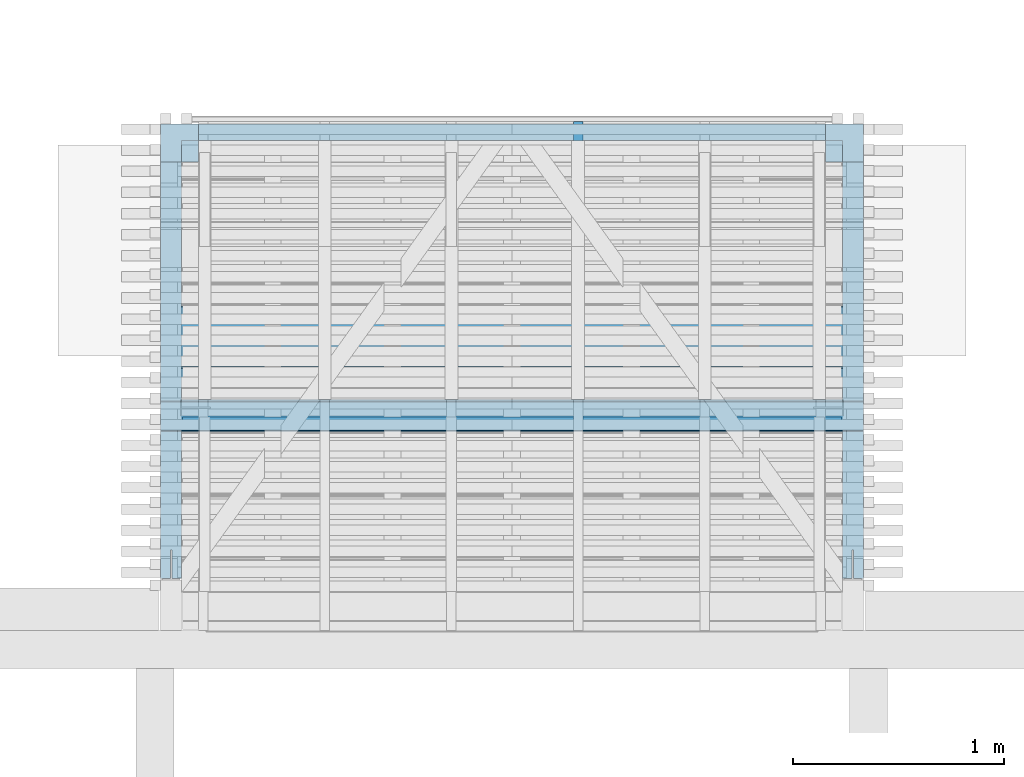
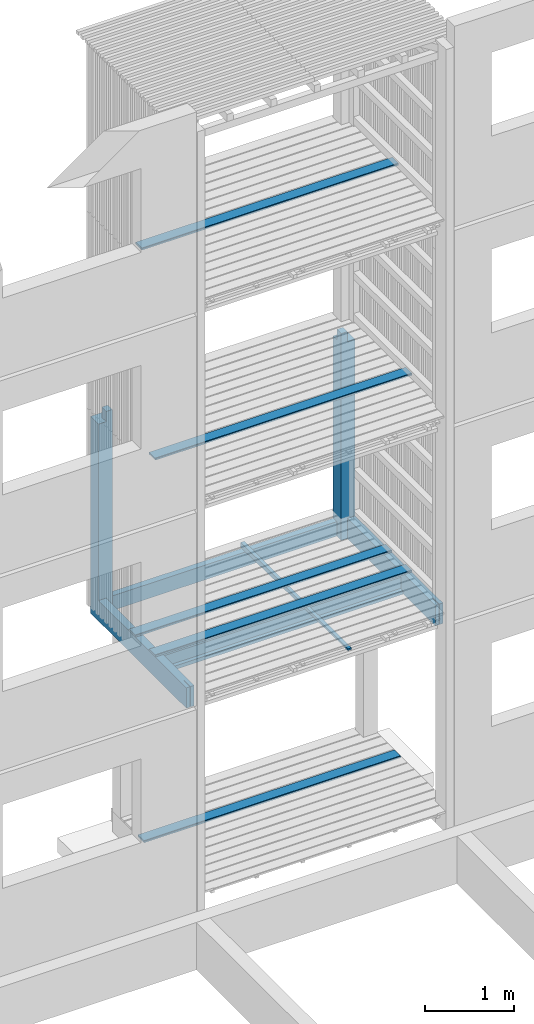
# One storey, part 96 of 182: 8 beams.
"""IFC2X3 building model written with IfcOpenShell, lengths in metres."""

from ifc_helpers import new_model, si_unit, frame, origin, place, context, project, spatial, faceted_brep, element, save


model = new_model("IFC2X3")

# Units and contexts
model_context = context("Model", 3, precision=1e-06, world=origin())
ifc_project = project(units=[si_unit("LENGTHUNIT", "METRE"), si_unit("PLANEANGLEUNIT", "RADIAN")], contexts=[model_context])

# Site, building, storey
site = spatial("IfcSite", under=ifc_project, CompositionType="ELEMENT")
building = spatial("IfcBuilding", under=site, CompositionType="ELEMENT")
storey = spatial("IfcBuildingStorey", under=building, Name="vs", CompositionType="ELEMENT", Elevation=-0.85)

# Beams
placement = place(None, origin())
beam_1_placement = place(placement, frame((44.68040135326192, 6.192577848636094, 2.437999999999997), z_axis=(0.0, -1.0, 0.0), x_axis=(0.0, 0.0, 1.0)))
element("IfcBeam", 1, at=beam_1_placement, inside=storey, Name="Poteau", context=model_context, shape_type="Brep", body=[
    faceted_brep([(2.841999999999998, -1.564999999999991, -0.997499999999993), (2.701999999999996, -1.564999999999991, -0.997499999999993), (2.701999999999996, -1.484999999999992, -0.997499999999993), (2.841999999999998, -1.484999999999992, -0.997499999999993), (2.701999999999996, 1.664999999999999, -1.077499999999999), (2.701999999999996, 1.485000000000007, -1.077499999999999), (0.202000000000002, 1.485000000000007, -1.077499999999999), (0.202000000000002, -1.484999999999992, -1.077499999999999), (2.701999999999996, -1.484999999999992, -1.077499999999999), (2.701999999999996, -1.664999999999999, -1.077499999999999), (0.002000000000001, -1.664999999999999, -1.077499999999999), (0.002000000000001, 1.664999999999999, -1.077499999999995), (0.282000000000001, -1.664999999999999, 1.077499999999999), (0.002000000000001, -1.664999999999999, 1.077499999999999), (0.002000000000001, -1.664999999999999, -1.077499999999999), (2.701999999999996, -1.664999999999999, -1.077499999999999), (2.701999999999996, -1.664999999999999, -0.897499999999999), (0.282000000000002, -1.664999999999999, -0.897499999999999), (2.701999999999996, -1.664999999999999, -0.897499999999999), (2.701999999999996, -1.664999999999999, -1.077499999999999), (2.701999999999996, -1.484999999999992, -1.077499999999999), (2.701999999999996, -1.484999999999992, -0.997499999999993), (2.701999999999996, -1.564999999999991, -0.997499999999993), (2.701999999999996, -1.564999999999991, -0.897499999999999), (2.701999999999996, -1.564999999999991, -0.897499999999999), (2.701999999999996, -1.564999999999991, -0.997499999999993), (2.841999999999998, -1.564999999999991, -0.997499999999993), (2.841999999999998, -1.564999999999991, -0.897499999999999), (2.841999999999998, -1.564999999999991, -0.897499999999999), (2.841999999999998, -1.564999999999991, -0.997499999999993), (2.841999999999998, -1.484999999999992, -0.997499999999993), (2.841999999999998, -1.484999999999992, -0.897499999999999), (0.002000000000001, -1.564999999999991, -0.897499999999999), (0.282000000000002, -1.564999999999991, -0.897499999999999), (0.282000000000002, -1.664999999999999, -0.897499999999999), (2.701999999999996, -1.664999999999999, -0.897499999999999), (2.701999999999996, -1.564999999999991, -0.897499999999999), (2.841999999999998, -1.564999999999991, -0.897499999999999), (2.841999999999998, -1.484999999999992, -0.897499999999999), (0.002000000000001, -1.484999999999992, -0.897499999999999), (0.202000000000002, -1.484999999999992, -0.997499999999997), (0.002000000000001, -1.484999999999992, -0.997499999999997), (0.002000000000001, -1.484999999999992, -0.897499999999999), (2.841999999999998, -1.484999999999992, -0.897499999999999), (2.841999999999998, -1.484999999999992, -0.997499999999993), (2.701999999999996, -1.484999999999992, -0.997499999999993), (2.701999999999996, -1.484999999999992, -1.077499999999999), (0.202000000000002, -1.484999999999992, -1.077499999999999), (2.841999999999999, 1.565000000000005, -0.897499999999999), (2.701999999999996, 1.565000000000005, -0.897499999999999), (2.701999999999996, 1.664999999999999, -0.897499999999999), (0.282000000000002, 1.664999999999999, -0.897499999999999), (0.282000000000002, 1.565000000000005, -0.897499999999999), (0.002000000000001, 1.565000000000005, -0.897499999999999), (0.002000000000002, 1.485000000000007, -0.897499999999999), (2.841999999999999, 1.485000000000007, -0.897499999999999), (2.841999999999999, 1.485000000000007, -0.997499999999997), (2.841999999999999, 1.485000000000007, -0.897499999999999), (0.002000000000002, 1.485000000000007, -0.897499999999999), (0.002000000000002, 1.485000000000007, -0.997500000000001), (0.202000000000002, 1.485000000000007, -0.997500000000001), (0.202000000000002, 1.485000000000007, -1.077499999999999), (2.701999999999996, 1.485000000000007, -1.077499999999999), (2.701999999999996, 1.485000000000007, -0.997499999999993), (2.701999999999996, 1.664999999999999, -1.077499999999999), (0.002000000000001, 1.664999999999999, -1.077499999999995), (0.002000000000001, 1.664999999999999, 1.077499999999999), (0.282000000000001, 1.664999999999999, 1.077499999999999), (0.282000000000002, 1.664999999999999, -0.897499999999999), (2.701999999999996, 1.664999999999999, -0.897499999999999), (0.202000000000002, 1.485000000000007, -0.997500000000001), (0.002000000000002, 1.485000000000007, -0.997500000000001), (0.002000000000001, -1.484999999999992, -0.997499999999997), (0.202000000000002, -1.484999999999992, -0.997499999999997), (0.202000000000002, -1.484999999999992, -1.077499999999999), (0.202000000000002, 1.485000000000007, -1.077499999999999), (0.202000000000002, 1.485000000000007, -0.997500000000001), (0.202000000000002, -1.484999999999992, -0.997499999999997), (0.002000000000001, -1.42799999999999, 0.263500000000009), (0.002, -1.564999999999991, 0.263500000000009), (0.177, -1.564999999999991, 0.263500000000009), (0.202000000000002, -1.564999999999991, 0.263500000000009), (0.202000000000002, -1.42799999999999, 0.263500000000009), (0.002000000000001, -1.42799999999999, 0.271500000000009), (0.002000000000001, -1.42799999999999, 0.263500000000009), (0.202000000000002, -1.42799999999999, 0.263500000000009), (0.202000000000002, -1.42799999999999, 0.271500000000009), (0.177, -1.564999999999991, 0.271500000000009), (0.002, -1.564999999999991, 0.271500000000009), (0.002000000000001, -1.42799999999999, 0.271500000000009), (0.202000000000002, -1.42799999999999, 0.271500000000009), (0.202000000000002, -1.564999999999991, 0.271500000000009), (0.177, -1.564999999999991, 0.263500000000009), (0.002, -1.564999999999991, 0.263500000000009), (0.002, -1.564999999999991, 0.22950000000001), (0.177, -1.564999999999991, 0.22950000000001), (0.202000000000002, -1.564999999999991, 0.271500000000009), (0.202000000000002, -1.42799999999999, 0.271500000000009), (0.202000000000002, -1.42799999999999, 0.263500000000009), (0.202000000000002, -1.564999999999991, 0.263500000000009), (0.202000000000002, -1.564999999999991, 0.227500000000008), (0.202000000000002, 1.565000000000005, 0.227500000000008), (0.202000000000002, 1.565000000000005, 0.30750000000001), (0.202000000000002, -1.564999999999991, 0.30750000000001), (0.002000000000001, 1.565000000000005, 0.227500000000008), (0.202000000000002, 1.565000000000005, 0.227500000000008), (0.202000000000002, -1.564999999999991, 0.227500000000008), (0.002, -1.564999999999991, 0.227500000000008), (0.202000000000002, -1.564999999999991, 0.30750000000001), (0.202000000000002, 1.565000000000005, 0.30750000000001), (0.002000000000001, 1.565000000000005, 0.30750000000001), (0.002, -1.564999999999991, 0.30750000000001), (0.002, -1.564999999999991, 0.305500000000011), (0.002, -1.564999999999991, 0.271500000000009), (0.177, -1.564999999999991, 0.271500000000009), (0.177, -1.564999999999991, 0.305500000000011), (0.002, -1.564999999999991, 0.227500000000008), (0.202000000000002, -1.564999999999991, 0.227500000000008), (0.202000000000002, -1.564999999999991, 0.263500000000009), (0.177, -1.564999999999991, 0.263500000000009), (0.177, -1.564999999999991, 0.271500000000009), (0.202000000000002, -1.564999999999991, 0.271500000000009), (0.202000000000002, -1.564999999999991, 0.30750000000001), (0.002, -1.564999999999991, 0.30750000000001), (0.002000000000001, -1.564999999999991, 1.077499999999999), (0.282000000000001, -1.564999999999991, 1.077499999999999), (0.282000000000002, -1.564999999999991, -0.897499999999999), (0.002000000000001, -1.564999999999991, -0.897499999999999), (0.002, -1.569999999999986, 0.22950000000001), (0.002, -1.569999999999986, 0.305500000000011), (0.177, -1.569999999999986, 0.305500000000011), (0.177, -1.569999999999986, 0.22950000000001), (0.177, -1.564999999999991, 0.271500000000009), (0.177, -1.564999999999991, 0.263500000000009), (0.177, -1.564999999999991, 0.22950000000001), (0.177, -1.569999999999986, 0.22950000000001), (0.177, -1.569999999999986, 0.305500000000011), (0.177, -1.564999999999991, 0.305500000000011), (0.177, -1.564999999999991, 0.22950000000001), (0.002, -1.564999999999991, 0.22950000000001), (0.002, -1.569999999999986, 0.22950000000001), (0.177, -1.569999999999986, 0.22950000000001), (0.177, -1.569999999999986, 0.305500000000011), (0.002, -1.569999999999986, 0.305500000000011), (0.002, -1.564999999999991, 0.305500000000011), (0.177, -1.564999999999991, 0.305500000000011), (0.002000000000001, -1.610999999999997, 0.940500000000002), (0.002000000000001, -1.618999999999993, 0.940500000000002), (0.282000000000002, -1.618999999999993, 0.940500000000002), (0.282000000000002, -1.610999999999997, 0.940500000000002), (0.282000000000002, -1.618999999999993, 0.940500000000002), (0.002000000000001, -1.618999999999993, 0.940500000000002), (0.002000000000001, -1.618999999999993, 1.077499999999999), (0.282000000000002, -1.618999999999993, 1.077500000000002), (0.002000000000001, -1.664999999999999, 1.077499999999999), (0.282000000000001, -1.664999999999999, 1.077499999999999), (0.282000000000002, -1.618999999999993, 1.077500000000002), (0.002000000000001, -1.618999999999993, 1.077499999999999), (0.282000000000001, -1.564999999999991, 1.077499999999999), (0.002000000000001, -1.564999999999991, 1.077499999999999), (0.002000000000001, -1.610999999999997, 1.077499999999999), (0.282000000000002, -1.610999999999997, 1.077500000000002), (0.282000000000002, -1.610999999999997, 1.077500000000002), (0.002000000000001, -1.610999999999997, 1.077499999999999), (0.002000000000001, -1.610999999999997, 0.940500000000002), (0.282000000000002, -1.610999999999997, 0.940500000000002), (0.282000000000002, -1.564999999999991, -0.897499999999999), (0.282000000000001, -1.564999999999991, 1.077499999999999), (0.282000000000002, -1.610999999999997, 1.077500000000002), (0.282000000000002, -1.610999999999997, 0.940500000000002), (0.282000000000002, -1.618999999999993, 0.940500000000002), (0.282000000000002, -1.618999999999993, 1.077500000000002), (0.282000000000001, -1.664999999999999, 1.077499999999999), (0.282000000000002, -1.664999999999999, -0.897499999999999), (0.002000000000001, 1.619000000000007, 0.940499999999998), (0.002000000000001, 1.611000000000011, 0.940499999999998), (0.282000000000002, 1.611000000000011, 0.940499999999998), (0.282000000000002, 1.619000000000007, 0.940499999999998), (0.282000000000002, 1.611000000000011, 0.940499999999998), (0.002000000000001, 1.611000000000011, 0.940499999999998), (0.002000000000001, 1.611000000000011, 1.077499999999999), (0.282000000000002, 1.611000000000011, 1.077499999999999), (0.002000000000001, 1.565000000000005, 1.077499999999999), (0.282000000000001, 1.565000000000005, 1.077499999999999), (0.282000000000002, 1.611000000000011, 1.077499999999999), (0.002000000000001, 1.611000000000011, 1.077499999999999), (0.282000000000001, 1.664999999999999, 1.077499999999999), (0.002000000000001, 1.664999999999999, 1.077499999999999), (0.002000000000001, 1.619000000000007, 1.077499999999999), (0.282000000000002, 1.619000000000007, 1.077499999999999), (0.282000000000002, 1.619000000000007, 1.077499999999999), (0.002000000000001, 1.619000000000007, 1.077499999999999), (0.002000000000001, 1.619000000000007, 0.940499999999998), (0.282000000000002, 1.619000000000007, 0.940499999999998), (0.282000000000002, 1.664999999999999, -0.897499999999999), (0.282000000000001, 1.664999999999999, 1.077499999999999), (0.282000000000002, 1.619000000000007, 1.077499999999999), (0.282000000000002, 1.619000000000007, 0.940499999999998), (0.282000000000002, 1.611000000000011, 0.940499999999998), (0.282000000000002, 1.611000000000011, 1.077499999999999), (0.282000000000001, 1.565000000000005, 1.077499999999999), (0.282000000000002, 1.565000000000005, -0.897499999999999), (0.202000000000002, 1.565000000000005, 0.227500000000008), (0.002000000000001, 1.565000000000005, 0.227500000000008), (0.002000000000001, 1.565000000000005, -0.897499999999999), (0.282000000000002, 1.565000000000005, -0.897499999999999), (0.282000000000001, 1.565000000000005, 1.077499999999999), (0.002000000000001, 1.565000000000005, 1.077499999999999), (0.002000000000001, 1.565000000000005, 0.30750000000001), (0.202000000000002, 1.565000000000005, 0.30750000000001), (0.002, 1.442250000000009, 0.249000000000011), (0.002, 1.442250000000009, 0.28600000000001), (1e-15, 1.442250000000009, 0.28600000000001), (1e-15, 1.442250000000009, 0.249000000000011), (0.002, 1.442250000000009, 0.249000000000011), (1e-15, 1.442250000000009, 0.249000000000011), (0.0, 1.565750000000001, 0.249000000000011), (0.002, 1.565750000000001, 0.249000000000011), (1e-15, 1.442250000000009, 0.28600000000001), (0.002, 1.442250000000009, 0.28600000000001), (0.002, 1.565750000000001, 0.28600000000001), (0.0, 1.565750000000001, 0.28600000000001), (1e-15, 1.442250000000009, 0.249000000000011), (1e-15, 1.442250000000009, 0.28600000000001), (0.0, 1.565750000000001, 0.28600000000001), (0.0, 1.565750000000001, 0.249000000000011), (0.0, 1.565750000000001, 0.249000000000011), (0.0, 1.565750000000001, 0.28600000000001), (0.002, 1.565750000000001, 0.28600000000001), (0.002, 1.565750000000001, 0.249000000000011), (0.002000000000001, 1.565000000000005, 0.30750000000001), (0.002000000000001, 1.565000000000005, 1.077499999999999), (0.002000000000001, 1.611000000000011, 1.077499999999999), (0.002000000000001, 1.611000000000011, 0.940499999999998), (0.002000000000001, 1.619000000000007, 0.940499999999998), (0.002000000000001, 1.619000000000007, 1.077499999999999), (0.002000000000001, 1.664999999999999, 1.077499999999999), (0.002000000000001, 1.664999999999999, -1.077499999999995), (0.002000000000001, -1.664999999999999, -1.077499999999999), (0.002000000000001, -1.664999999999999, 1.077499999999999), (0.002000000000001, -1.618999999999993, 1.077499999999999), (0.002000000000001, -1.618999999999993, 0.940500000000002), (0.002000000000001, -1.610999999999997, 0.940500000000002), (0.002000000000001, -1.610999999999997, 1.077499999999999), (0.002000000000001, -1.564999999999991, 1.077499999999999), (0.002, -1.564999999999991, 0.30750000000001), (0.002, -1.564999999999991, 0.271500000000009), (0.002, -1.564999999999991, 0.305500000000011), (0.002, -1.569999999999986, 0.305500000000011), (0.002, -1.569999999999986, 0.22950000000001), (0.002, -1.564999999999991, 0.22950000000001), (0.002, -1.564999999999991, 0.263500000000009), (0.002000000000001, -1.42799999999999, 0.263500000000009), (0.002000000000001, -1.42799999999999, 0.271500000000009), (0.002000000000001, 1.565000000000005, -0.897499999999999), (0.002000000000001, 1.565000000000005, 0.227500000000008), (0.002, -1.564999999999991, 0.227500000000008), (0.002000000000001, -1.564999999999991, -0.897499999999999), (0.002000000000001, -1.484999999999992, -0.897499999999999), (0.002000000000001, -1.484999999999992, -0.997499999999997), (0.002000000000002, 1.485000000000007, -0.997500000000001), (0.002000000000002, 1.485000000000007, -0.897499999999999), (0.002, 1.565750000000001, 0.249000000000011), (0.002, 1.565750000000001, 0.28600000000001), (0.002, 1.442250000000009, 0.28600000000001), (0.002, 1.442250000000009, 0.249000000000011), (2.841999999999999, 1.485000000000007, -0.997499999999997), (2.701999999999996, 1.485000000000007, -0.997499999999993), (2.701999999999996, 1.565000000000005, -0.997499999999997), (2.841999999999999, 1.565000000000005, -0.997499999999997), (2.841999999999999, 1.565000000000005, -0.897499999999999), (2.841999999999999, 1.485000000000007, -0.897499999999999), (2.841999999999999, 1.485000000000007, -0.997499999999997), (2.841999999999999, 1.565000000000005, -0.997499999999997), (2.701999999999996, 1.565000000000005, -0.897499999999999), (2.841999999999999, 1.565000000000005, -0.897499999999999), (2.841999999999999, 1.565000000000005, -0.997499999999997), (2.701999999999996, 1.565000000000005, -0.997499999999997), (2.701999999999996, 1.664999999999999, -1.077499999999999), (2.701999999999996, 1.664999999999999, -0.897499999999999), (2.701999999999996, 1.565000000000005, -0.897499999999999), (2.701999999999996, 1.565000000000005, -0.997499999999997), (2.701999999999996, 1.485000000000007, -0.997499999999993), (2.701999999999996, 1.485000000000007, -1.077499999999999)], [[[0, 1, 2, 3]], [[4, 5, 6, 7, 8, 9, 10, 11]], [[12, 13, 14, 15, 16, 17]], [[18, 19, 20, 21, 22, 23]], [[24, 25, 26, 27]], [[28, 29, 30, 31]], [[32, 33, 34, 35, 36, 37, 38, 39]], [[40, 41, 42, 43, 44, 45, 46, 47]], [[48, 49, 50, 51, 52, 53, 54, 55]], [[56, 57, 58, 59, 60, 61, 62, 63]], [[64, 65, 66, 67, 68, 69]], [[70, 71, 72, 73]], [[74, 75, 76, 77]], [[78, 79, 80, 81, 82]], [[83, 84, 85, 86]], [[87, 88, 89, 90, 91]], [[92, 93, 94, 95]], [[96, 97, 98, 99, 100, 101, 102, 103]], [[104, 105, 106, 107]], [[108, 109, 110, 111]], [[112, 113, 114, 115]], [[116, 117, 118, 119, 120, 121, 122, 123, 124, 125, 126, 127]], [[128, 129, 130, 131]], [[132, 133, 134, 135, 136, 137]], [[138, 139, 140, 141]], [[142, 143, 144, 145]], [[146, 147, 148, 149]], [[150, 151, 152, 153]], [[154, 155, 156, 157]], [[158, 159, 160, 161]], [[162, 163, 164, 165]], [[166, 167, 168, 169, 170, 171, 172, 173]], [[174, 175, 176, 177]], [[178, 179, 180, 181]], [[182, 183, 184, 185]], [[186, 187, 188, 189]], [[190, 191, 192, 193]], [[194, 195, 196, 197, 198, 199, 200, 201]], [[202, 203, 204, 205, 206, 207, 208, 209]], [[210, 211, 212, 213]], [[214, 215, 216, 217]], [[218, 219, 220, 221]], [[222, 223, 224, 225]], [[226, 227, 228, 229]], [[230, 231, 232, 233, 234, 235, 236, 237, 238, 239, 240, 241, 242, 243, 244, 245], [246, 247, 248, 249, 250, 251, 252, 253], [254, 255, 256, 257, 258, 259, 260, 261], [262, 263, 264, 265]], [[266, 267, 268, 269]], [[270, 271, 272, 273]], [[274, 275, 276, 277]], [[278, 279, 280, 281, 282, 283]]]),
])
beam_2_placement = place(placement, frame((46.345401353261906, 6.134577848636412, 0.033500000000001), z_axis=(0.0, 0.0, 1.0), x_axis=(-1.0, 0.0, 0.0)))
element("IfcBeam", 2, at=beam_2_placement, inside=storey, Name="Caillebotis", context=model_context, shape_type="Brep", body=[
    faceted_brep([(3.329999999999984, -0.067500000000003, 0.0135), (3.329999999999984, -0.072499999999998, 0.008500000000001), (3.329999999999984, -0.072499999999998, -0.013500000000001), (3.329999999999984, 0.072499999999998, -0.013500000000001), (3.329999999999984, 0.072499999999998, 0.0085), (3.329999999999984, 0.067500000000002, 0.0135), (0.0, 0.067499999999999, 0.0135), (0.0, 0.072499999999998, 0.0085), (0.0, 0.072499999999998, -0.013500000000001), (0.0, -0.072500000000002, -0.013500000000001), (0.0, -0.072500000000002, 0.008500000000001), (0.0, -0.067500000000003, 0.0135), (3.329999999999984, -0.072499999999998, -0.013500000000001), (3.329999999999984, -0.072499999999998, 0.008500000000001), (0.0, -0.072500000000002, 0.008500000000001), (0.0, -0.072500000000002, -0.013500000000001), (3.329999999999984, 0.072499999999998, -0.013500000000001), (3.329999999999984, -0.072499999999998, -0.013500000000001), (0.0, -0.072500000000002, -0.013500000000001), (0.0, 0.072499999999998, -0.013500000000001), (3.329999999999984, 0.072499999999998, 0.0085), (3.329999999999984, 0.072499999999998, -0.013500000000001), (0.0, 0.072499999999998, -0.013500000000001), (0.0, 0.072499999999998, 0.0085), (3.329999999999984, 0.067500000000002, 0.0135), (3.329999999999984, 0.072499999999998, 0.0085), (0.0, 0.072499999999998, 0.0085), (0.0, 0.067499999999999, 0.0135), (3.329999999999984, -0.067500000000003, 0.0135), (3.329999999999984, 0.067500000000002, 0.0135), (0.0, 0.067499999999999, 0.0135), (0.0, -0.067500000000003, 0.0135), (0.0, -0.072500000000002, 0.008500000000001), (3.329999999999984, -0.072499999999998, 0.008500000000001), (3.329999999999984, -0.067500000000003, 0.0135), (0.0, -0.067500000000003, 0.0135)], [[[0, 1, 2, 3, 4, 5]], [[6, 7, 8, 9, 10, 11]], [[12, 13, 14, 15]], [[16, 17, 18, 19]], [[20, 21, 22, 23]], [[24, 25, 26, 27]], [[28, 29, 30, 31]], [[32, 33, 34, 35]]]),
])
beam_3_placement = place(placement, frame((46.34540135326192, 6.184577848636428, 8.13349999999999), z_axis=(0.0, 0.0, 1.0), x_axis=(-1.0, -8e-15, 0.0)))
element("IfcBeam", 3, at=beam_3_placement, inside=storey, Name="Caillebotis", context=model_context, shape_type="Brep", body=[
    faceted_brep([(3.329999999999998, -0.072500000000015, -0.013500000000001), (3.329999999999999, 0.072499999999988, -0.013500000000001), (3.329999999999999, 0.072499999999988, 0.008499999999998), (3.329999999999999, 0.067499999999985, 0.013499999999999), (3.329999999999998, -0.067500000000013, 0.013499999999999), (3.329999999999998, -0.072500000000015, 0.0085), (-1e-15, -0.072499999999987, 0.0085), (-1e-15, -0.067499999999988, 0.013499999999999), (1e-15, 0.067500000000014, 0.013499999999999), (1e-15, 0.072500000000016, 0.008499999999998), (1e-15, 0.072500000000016, -0.013500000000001), (-1e-15, -0.072499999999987, -0.013500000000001), (3.329999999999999, 0.072499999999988, 0.008499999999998), (3.329999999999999, 0.072499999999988, -0.013500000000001), (1e-15, 0.072500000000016, -0.013500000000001), (1e-15, 0.072500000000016, 0.008499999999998), (3.329999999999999, 0.067499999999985, 0.013499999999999), (3.329999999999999, 0.072499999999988, 0.008499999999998), (1e-15, 0.072500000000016, 0.008499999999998), (1e-15, 0.067500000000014, 0.013499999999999), (3.329999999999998, -0.067500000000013, 0.013499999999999), (3.329999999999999, 0.067499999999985, 0.013499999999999), (1e-15, 0.067500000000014, 0.013499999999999), (-1e-15, -0.067499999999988, 0.013499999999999), (3.329999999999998, -0.072500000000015, 0.0085), (3.329999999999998, -0.067500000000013, 0.013499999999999), (-1e-15, -0.067499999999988, 0.013499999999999), (-1e-15, -0.072499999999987, 0.0085), (3.329999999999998, -0.072500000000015, -0.013500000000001), (3.329999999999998, -0.072500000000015, 0.0085), (-1e-15, -0.072499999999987, 0.0085), (-1e-15, -0.072499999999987, -0.013500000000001), (1e-15, 0.072500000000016, -0.013500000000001), (3.329999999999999, 0.072499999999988, -0.013500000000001), (3.329999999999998, -0.072500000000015, -0.013500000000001), (-1e-15, -0.072499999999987, -0.013500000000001)], [[[0, 1, 2, 3, 4, 5]], [[6, 7, 8, 9, 10, 11]], [[12, 13, 14, 15]], [[16, 17, 18, 19]], [[20, 21, 22, 23]], [[24, 25, 26, 27]], [[28, 29, 30, 31]], [[32, 33, 34, 35]]]),
])
beam_4_placement = place(placement, frame((46.345401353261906, 5.884577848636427, 2.733499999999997), z_axis=(0.0, 0.0, 1.0), x_axis=(-1.0, -8e-15, 0.0)))
element("IfcBeam", 4, at=beam_4_placement, inside=storey, Name="Caillebotis", context=model_context, shape_type="Brep", body=[
    faceted_brep([(3.329999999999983, -0.072500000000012, -0.0135), (3.329999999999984, 0.072499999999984, -0.0135), (3.329999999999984, 0.072499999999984, 0.0085), (3.329999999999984, 0.067499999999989, 0.0135), (3.329999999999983, -0.067500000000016, 0.0135), (3.329999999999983, -0.072500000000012, 0.008500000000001), (-1.5e-14, -0.072499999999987, 0.008500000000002), (-1.5e-14, -0.067499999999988, 0.0135), (-1.4e-14, 0.067500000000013, 0.0135), (-1.4e-14, 0.072500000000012, 0.0085), (-1.4e-14, 0.072500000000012, -0.0135), (-1.5e-14, -0.072499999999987, -0.0135), (3.329999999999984, 0.072499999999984, 0.0085), (3.329999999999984, 0.072499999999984, -0.0135), (-1.4e-14, 0.072500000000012, -0.0135), (-1.4e-14, 0.072500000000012, 0.0085), (3.329999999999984, 0.067499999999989, 0.0135), (3.329999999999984, 0.072499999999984, 0.0085), (-1.4e-14, 0.072500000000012, 0.0085), (-1.4e-14, 0.067500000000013, 0.0135), (3.329999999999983, -0.067500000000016, 0.0135), (3.329999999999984, 0.067499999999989, 0.0135), (-1.4e-14, 0.067500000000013, 0.0135), (-1.5e-14, -0.067499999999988, 0.0135), (3.329999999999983, -0.072500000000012, 0.008500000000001), (3.329999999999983, -0.067500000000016, 0.0135), (-1.5e-14, -0.067499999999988, 0.0135), (-1.5e-14, -0.072499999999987, 0.008500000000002), (3.329999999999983, -0.072500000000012, -0.0135), (3.329999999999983, -0.072500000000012, 0.008500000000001), (-1.5e-14, -0.072499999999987, 0.008500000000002), (-1.5e-14, -0.072499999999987, -0.0135), (-1.4e-14, 0.072500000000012, -0.0135), (3.329999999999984, 0.072499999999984, -0.0135), (3.329999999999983, -0.072500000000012, -0.0135), (-1.5e-14, -0.072499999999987, -0.0135)], [[[0, 1, 2, 3, 4, 5]], [[6, 7, 8, 9, 10, 11]], [[12, 13, 14, 15]], [[16, 17, 18, 19]], [[20, 21, 22, 23]], [[24, 25, 26, 27]], [[28, 29, 30, 31]], [[32, 33, 34, 35]]]),
])
beam_5_placement = place(placement, frame((46.240401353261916, 5.855077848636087, 2.467999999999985), z_axis=(0.0, 0.0, 1.0), x_axis=(-1.0, -1e-15, 0.0)))
element("IfcBeam", 5, at=beam_5_placement, inside=storey, Name="Bardage", context=model_context, shape_type="Brep", body=[
    faceted_brep([(3.120000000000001, 0.025000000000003, -0.025), (3.120000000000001, -0.025000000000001, -0.025), (-3e-15, -0.024999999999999, -0.025), (-3e-15, 0.025000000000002, -0.025), (-3e-15, -0.024999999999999, -0.025), (3.120000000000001, -0.025000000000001, -0.025), (3.120000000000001, -0.025000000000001, 0.025), (-3e-15, -0.024999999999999, 0.025), (3.120000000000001, -0.025000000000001, -0.025), (3.120000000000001, 0.025000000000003, -0.025), (3.120000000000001, 0.025000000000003, 0.025), (3.120000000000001, -0.025000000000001, 0.025), (3.120000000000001, 0.025000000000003, 0.025), (3.120000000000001, 0.025000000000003, -0.025), (-3e-15, 0.025000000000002, -0.025), (-3e-15, 0.025000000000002, 0.025), (-3e-15, -0.024999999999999, 0.025), (3.120000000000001, -0.025000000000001, 0.025), (3.120000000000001, 0.025000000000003, 0.025), (-3e-15, 0.025000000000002, 0.025), (-3e-15, -0.024999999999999, -0.025), (-3e-15, -0.024999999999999, 0.025), (-3e-15, 0.025000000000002, 0.025), (-3e-15, 0.025000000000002, -0.025)], [[[0, 1, 2, 3]], [[4, 5, 6, 7]], [[8, 9, 10, 11]], [[12, 13, 14, 15]], [[16, 17, 18, 19]], [[20, 21, 22, 23]]]),
])
beam_6_placement = place(placement, frame((46.345401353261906, 6.33457784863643, 2.733499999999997), z_axis=(0.0, 0.0, 1.0), x_axis=(-1.0, -8e-15, 0.0)))
element("IfcBeam", 6, at=beam_6_placement, inside=storey, Name="Caillebotis", context=model_context, shape_type="Brep", body=[
    faceted_brep([(3.329999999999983, -0.072500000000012, -0.0135), (3.329999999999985, 0.072499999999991, -0.0135), (3.329999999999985, 0.072499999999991, 0.0085), (3.329999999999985, 0.067499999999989, 0.0135), (3.329999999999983, -0.067500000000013, 0.0135), (3.329999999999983, -0.072500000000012, 0.008500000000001), (-1.5e-14, -0.072499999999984, 0.008500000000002), (-1.5e-14, -0.067499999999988, 0.0135), (-1.4e-14, 0.067500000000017, 0.0135), (-1.4e-14, 0.072500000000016, 0.0085), (-1.4e-14, 0.072500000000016, -0.0135), (-1.5e-14, -0.072499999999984, -0.0135), (3.329999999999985, 0.072499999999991, 0.0085), (3.329999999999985, 0.072499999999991, -0.0135), (-1.4e-14, 0.072500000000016, -0.0135), (-1.4e-14, 0.072500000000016, 0.0085), (3.329999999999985, 0.067499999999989, 0.0135), (3.329999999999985, 0.072499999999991, 0.0085), (-1.4e-14, 0.072500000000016, 0.0085), (-1.4e-14, 0.067500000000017, 0.0135), (3.329999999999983, -0.067500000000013, 0.0135), (3.329999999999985, 0.067499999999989, 0.0135), (-1.4e-14, 0.067500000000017, 0.0135), (-1.5e-14, -0.067499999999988, 0.0135), (3.329999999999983, -0.072500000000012, 0.008500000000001), (3.329999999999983, -0.067500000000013, 0.0135), (-1.5e-14, -0.067499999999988, 0.0135), (-1.5e-14, -0.072499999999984, 0.008500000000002), (3.329999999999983, -0.072500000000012, -0.0135), (3.329999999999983, -0.072500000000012, 0.008500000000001), (-1.5e-14, -0.072499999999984, 0.008500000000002), (-1.5e-14, -0.072499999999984, -0.0135), (-1.4e-14, 0.072500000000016, -0.0135), (3.329999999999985, 0.072499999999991, -0.0135), (3.329999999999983, -0.072500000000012, -0.0135), (-1.5e-14, -0.072499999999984, -0.0135)], [[[0, 1, 2, 3, 4, 5]], [[6, 7, 8, 9, 10, 11]], [[12, 13, 14, 15]], [[16, 17, 18, 19]], [[20, 21, 22, 23]], [[24, 25, 26, 27]], [[28, 29, 30, 31]], [[32, 33, 34, 35]]]),
])
beam_7_placement = place(placement, frame((46.345401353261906, 5.884577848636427, 5.433499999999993), z_axis=(0.0, 0.0, 1.0), x_axis=(-1.0, -8e-15, 0.0)))
element("IfcBeam", 7, at=beam_7_placement, inside=storey, Name="Caillebotis", context=model_context, shape_type="Brep", body=[
    faceted_brep([(3.329999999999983, -0.072500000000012, -0.0135), (3.329999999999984, 0.072499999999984, -0.0135), (3.329999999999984, 0.072499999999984, 0.0085), (3.329999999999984, 0.067499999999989, 0.0135), (3.329999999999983, -0.067500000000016, 0.0135), (3.329999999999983, -0.072500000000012, 0.008500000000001), (-1.5e-14, -0.072499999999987, 0.008500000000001), (-1.5e-14, -0.067499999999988, 0.0135), (-1.4e-14, 0.067500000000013, 0.0135), (-1.4e-14, 0.072500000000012, 0.0085), (-1.4e-14, 0.072500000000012, -0.0135), (-1.5e-14, -0.072499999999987, -0.0135), (3.329999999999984, 0.072499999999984, 0.0085), (3.329999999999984, 0.072499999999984, -0.0135), (-1.4e-14, 0.072500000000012, -0.0135), (-1.4e-14, 0.072500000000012, 0.0085), (3.329999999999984, 0.067499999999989, 0.0135), (3.329999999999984, 0.072499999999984, 0.0085), (-1.4e-14, 0.072500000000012, 0.0085), (-1.4e-14, 0.067500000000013, 0.0135), (3.329999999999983, -0.067500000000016, 0.0135), (3.329999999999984, 0.067499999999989, 0.0135), (-1.4e-14, 0.067500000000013, 0.0135), (-1.5e-14, -0.067499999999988, 0.0135), (3.329999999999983, -0.072500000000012, 0.008500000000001), (3.329999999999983, -0.067500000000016, 0.0135), (-1.5e-14, -0.067499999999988, 0.0135), (-1.5e-14, -0.072499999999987, 0.008500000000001), (3.329999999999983, -0.072500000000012, -0.0135), (3.329999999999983, -0.072500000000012, 0.008500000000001), (-1.5e-14, -0.072499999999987, 0.008500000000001), (-1.5e-14, -0.072499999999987, -0.0135), (-1.4e-14, 0.072500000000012, -0.0135), (3.329999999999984, 0.072499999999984, -0.0135), (3.329999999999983, -0.072500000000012, -0.0135), (-1.5e-14, -0.072499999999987, -0.0135)], [[[0, 1, 2, 3, 4, 5]], [[6, 7, 8, 9, 10, 11]], [[12, 13, 14, 15]], [[16, 17, 18, 19]], [[20, 21, 22, 23]], [[24, 25, 26, 27]], [[28, 29, 30, 31]], [[32, 33, 34, 35]]]),
])
beam_8_placement = place(placement, frame((44.993401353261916, 4.870077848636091, 2.684400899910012), z_axis=(0.0, 0.0, 1.0), x_axis=(0.0, 1.0, 0.0)))
element("IfcBeam", 8, at=beam_8_placement, inside=storey, Name="Calage", context=model_context, shape_type="Brep", body=[
    faceted_brep([(2.410000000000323, -0.022499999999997, -0.035599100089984), (0.0, -0.022499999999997, 0.012600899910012), (0.0, 0.022500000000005, 0.012600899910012), (2.410000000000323, 0.02249999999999, -0.035599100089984), (0.0, 0.022500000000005, 0.035599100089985), (0.0, 0.022500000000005, 0.012600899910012), (0.0, -0.022499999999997, 0.012600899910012), (0.0, -0.022499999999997, 0.035599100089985), (2.410000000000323, 0.02249999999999, -0.035599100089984), (0.0, 0.022500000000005, 0.012600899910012), (0.0, 0.022500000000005, 0.035599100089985), (2.410000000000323, 0.022500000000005, 0.035599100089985), (2.410000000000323, -0.022499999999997, 0.035599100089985), (0.0, -0.022499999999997, 0.035599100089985), (0.0, -0.022499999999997, 0.012600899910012), (2.410000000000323, -0.022499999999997, -0.035599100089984), (2.410000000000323, 0.022500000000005, 0.035599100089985), (0.0, 0.022500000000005, 0.035599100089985), (0.0, -0.022499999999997, 0.035599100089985), (2.410000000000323, -0.022499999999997, 0.035599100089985), (2.410000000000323, 0.02249999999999, -0.035599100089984), (2.410000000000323, 0.022500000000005, 0.035599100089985), (2.410000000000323, -0.022499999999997, 0.035599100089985), (2.410000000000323, -0.022499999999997, -0.035599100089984)], [[[0, 1, 2, 3]], [[4, 5, 6, 7]], [[8, 9, 10, 11]], [[12, 13, 14, 15]], [[16, 17, 18, 19]], [[20, 21, 22, 23]]]),
])

save(model, "model.ifc")
